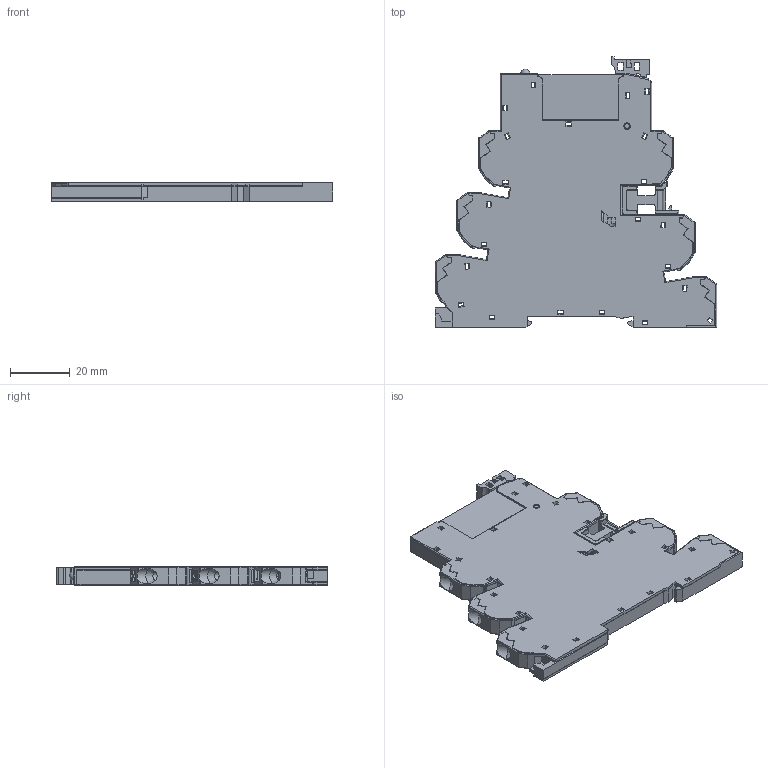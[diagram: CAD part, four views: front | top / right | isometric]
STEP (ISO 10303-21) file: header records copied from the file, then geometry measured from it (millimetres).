
FILE_DESCRIPTION( ( 'Unknown' ), '1' );
FILE_NAME( 'C:/Users/pdellaca/Desktop/Mezzacappa 93.6x push-in/39xx + 936x push-in STP/3960.stp', 'Unknown', ( 'Unknown' ), ( 'Unknown' ), 'PSStep 15.0.49', 'Unknown', ' ' );
FILE_SCHEMA( ( 'AUTOMOTIVE_DESIGN { 1 0 10303 214 1 1 1 1 }' ) );
Length unit declared in the file: millimetre
Products named in the file (13): top; EF00901-
Bounding box: 94.25 x 90.7 x 6.15 mm (x, y, z)
Surface area: 32768.9 mm2 (no closed solid volume)
Topology: 0 solids, 1063 shells, 1063 faces, 7758 edges, 7725 vertices
Faces by surface type: plane 762, cylinder 253, sphere 17, cone 13, torus 12, bspline 6
Full cylindrical faces by diameter (mm): 2 x2, 2.2 x2, 2.8 x6
Entity records: 80633 total; most frequent: CARTESIAN_POINT 17087, DIRECTION 10766, VERTEX_POINT 7712, ORIENTED_EDGE 7711, EDGE_CURVE 7711, LINE 6598, VECTOR 6598, AXIS2_PLACEMENT_3D 2084
